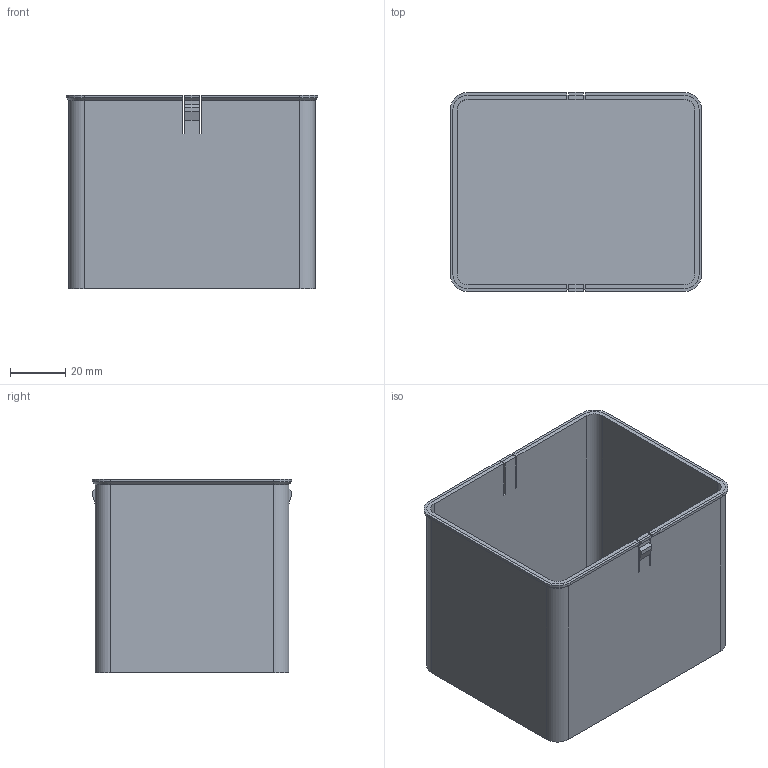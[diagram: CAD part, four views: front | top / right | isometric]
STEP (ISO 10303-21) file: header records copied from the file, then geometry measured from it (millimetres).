
FILE_DESCRIPTION(('Open CASCADE Model'),'2;1');
FILE_NAME('Open CASCADE Shape Model','2026-11-02T07:25:43',('Author'),( 'Open CASCADE'),'Open CASCADE STEP processor 7.8','Open CASCADE 7.8' ,'Unknown');
FILE_SCHEMA(('AUTOMOTIVE_DESIGN { 1 0 10303 214 1 1 1 1 }'));
Length unit declared in the file: millimetre
Products named in the file (1): Open CASCADE STEP translator 7.8 3
Bounding box: 91 x 72 x 70 mm (x, y, z)
Volume: 43851.1 mm3; surface area: 54928 mm2
Topology: 1 solids, 1 shells, 74 faces, 200 edges, 128 vertices
Faces by surface type: plane 58, cylinder 12, cone 4
Entity records: 4900 total; most frequent: CARTESIAN_POINT 887, DIRECTION 744, LINE 524, VECTOR 524, ORIENTED_EDGE 400, PCURVE 400, DEFINITIONAL_REPRESENTATION 400, EDGE_CURVE 200
